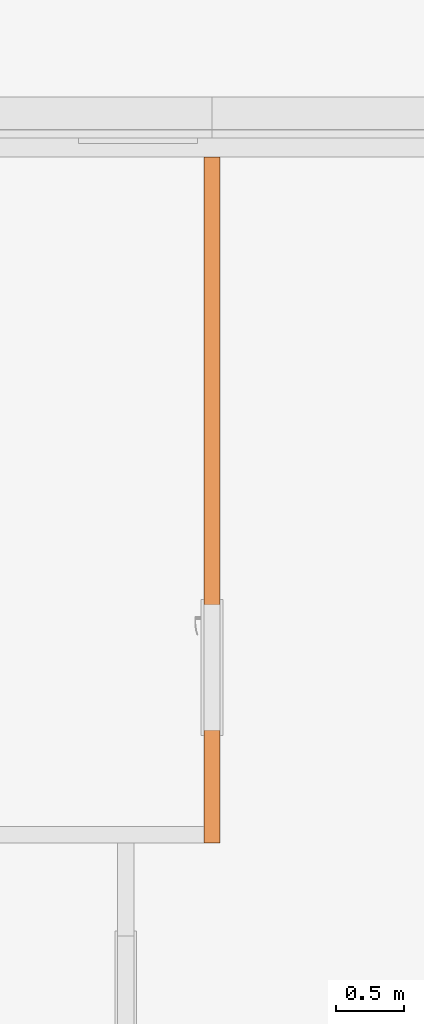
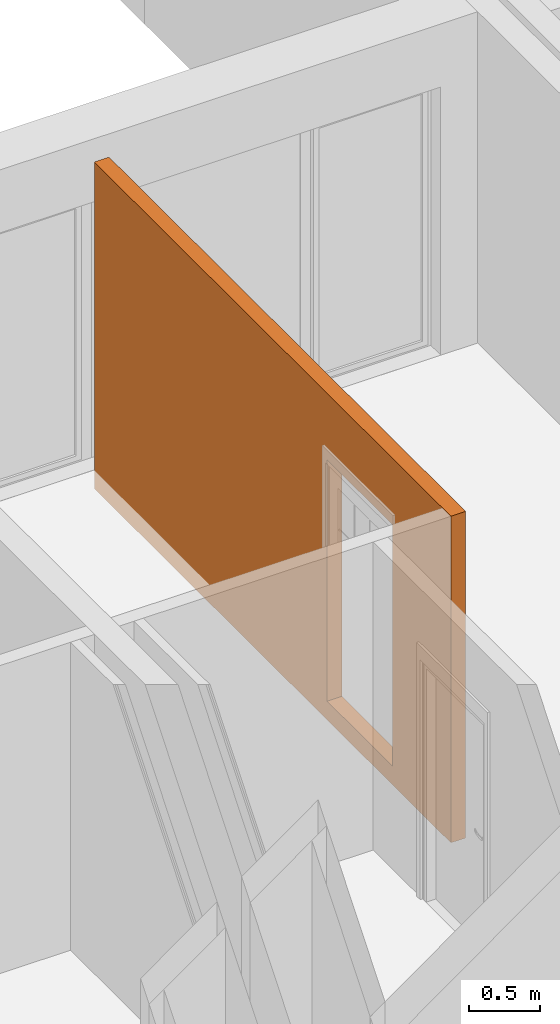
# One storey, part 43 of 66: 1 proxy, 1 opening.
"""IFC2X3 building model written with IfcOpenShell, lengths in millimetres."""

from ifc_helpers import new_model, entity, si_unit, converted_unit, derived_unit, money_unit, direction, frame, origin_with_axes, origin_2d_with_axis, place, context, subcontext, project, spatial, rectangle, extrude, faceted_brep, material, type_object, element, save


model = new_model("IFC2X3")

# Units and contexts
model_context = context("Model", 3, precision=0.01, world=origin_with_axes(), true_north=direction((0.34421633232, 0.938890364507)))
body_context = subcontext(model_context, "Body", "Model", "MODEL_VIEW")
ifc_project = project(units=[si_unit("LENGTHUNIT", "METRE", prefix="MILLI"), si_unit("AREAUNIT", "SQUARE_METRE"), si_unit("VOLUMEUNIT", "CUBIC_METRE"), converted_unit("PLANEANGLEUNIT", "DEGREE", entity("IfcPlaneAngleMeasure", 0.0174532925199), si_unit("PLANEANGLEUNIT", "RADIAN"), dimensions=[0, 0, 0, 0, 0, 0, 0]), si_unit("SOLIDANGLEUNIT", "STERADIAN"), money_unit("USD"), converted_unit("TIMEUNIT", "Year", entity("IfcTimeMeasure", 31556926.0), si_unit("TIMEUNIT", "SECOND"), dimensions=[0, 0, 1, 0, 0, 0, 0]), si_unit("MASSUNIT", "GRAM", prefix="KILO"), si_unit("THERMODYNAMICTEMPERATUREUNIT", "DEGREE_CELSIUS"), si_unit("LUMINOUSINTENSITYUNIT", "LUMEN"), si_unit("ENERGYUNIT", "JOULE", prefix="MEGA"), derived_unit("THERMALCONDUCTANCEUNIT", [(si_unit("POWERUNIT", "WATT"), 1), (si_unit("LENGTHUNIT", "METRE"), -1), (si_unit("THERMODYNAMICTEMPERATUREUNIT", "KELVIN"), -1)]), derived_unit("SPECIFICHEATCAPACITYUNIT", [(si_unit("ENERGYUNIT", "JOULE"), 1), (si_unit("MASSUNIT", "GRAM", prefix="KILO"), -1), (si_unit("THERMODYNAMICTEMPERATUREUNIT", "KELVIN"), -1)]), derived_unit("MASSDENSITYUNIT", [(si_unit("MASSUNIT", "GRAM", prefix="KILO"), 1), (si_unit("VOLUMEUNIT", "CUBIC_METRE"), -1)])], contexts=[model_context])

# Site, building, storey
site_placement = place(None, origin_with_axes())
site = spatial("IfcSite", under=ifc_project, at=site_placement, Name="USTRONIE MORSKIE", CompositionType="ELEMENT")
building_placement = place(site_placement, origin_with_axes())
building = spatial("IfcBuilding", under=site, at=building_placement, Name="Budynek", CompositionType="ELEMENT")
storey_placement = place(building_placement, frame((0.0, 0.0, 10000.0), z_axis=(0.0, 0.0, 1.0), x_axis=(1.0, 0.0, 0.0)))
storey = spatial("IfcBuildingStorey", under=building, at=storey_placement, Name="PIĘTRO 3", CompositionType="ELEMENT", Elevation=10000.0)

# Proxy, opening
ifc_material = material(Name="Bloczki silikatowe")
building_element_proxy_type = type_object("IfcBuildingElementProxyType", Name="Bloczki silikatowe 120", PredefinedType="NOTDEFINED")
proxy_placement = place(storey_placement, frame((405167.928052, 739651.199937, -160.0), z_axis=(0.0, 0.0, 1.0), x_axis=(0.0, 1.0, 0.0)))
proxy = element("IfcBuildingElementProxy", 1, at=proxy_placement, inside=storey, type_object=building_element_proxy_type, material=ifc_material, Name="SW-04", context=body_context, shape_type="Brep", body=[
    faceted_brep([(4949.99931112, -60.0, 2800.0), (4949.99930826, 60.0, 2800.0), (-59.9999999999, 60.0, 2800.0), (-59.9999999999, -60.0, 2800.0), (4949.99931112, -60.0, 0.0), (4949.99930826, 60.0, 0.0), (-59.9999999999, 60.0, 0.0), (-59.9999999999, -60.0, 0.0)], [[[0, 1, 2, 3]], [[1, 0, 4, 5]], [[1, 5, 6, 2]], [[7, 3, 2, 6]], [[4, 0, 3, 7]], [[5, 4, 7, 6]]]),
])
opening_placement = place(proxy_placement, frame((1220.0, 0.0, 160.0), z_axis=(0.0, 0.0, 1.0), x_axis=(1.0, 0.0, 0.0)))
element("IfcOpeningElement", 2, at=opening_placement, cuts=proxy, Name="Dw.3", context=body_context, shape_type="SweptSolid", body=[
    extrude(rectangle(XDim=920.0, YDim=2070.0, at=origin_2d_with_axis()), frame((0.0, 120.0, 1035.0), z_axis=(0.0, 1.0, 0.0), x_axis=(-1.0, 0.0, 0.0)), (0.0, 0.0, -1.0), 360.0),
    extrude(rectangle(XDim=994.0, YDim=2177.0, at=origin_2d_with_axis()), frame((0.0, 60.0, 1088.5), z_axis=(0.0, 1.0, 0.0), x_axis=(-1.0, 0.0, 0.0)), (0.0, 0.0, 1.0), 120.0),
    extrude(rectangle(XDim=994.0, YDim=2177.0, at=origin_2d_with_axis()), frame((0.0, -60.0, 1088.5), z_axis=(0.0, -1.0, 0.0), x_axis=(-1.0, 0.0, 0.0)), (0.0, 0.0, 1.0), 120.0),
])

save(model, "model.ifc")
